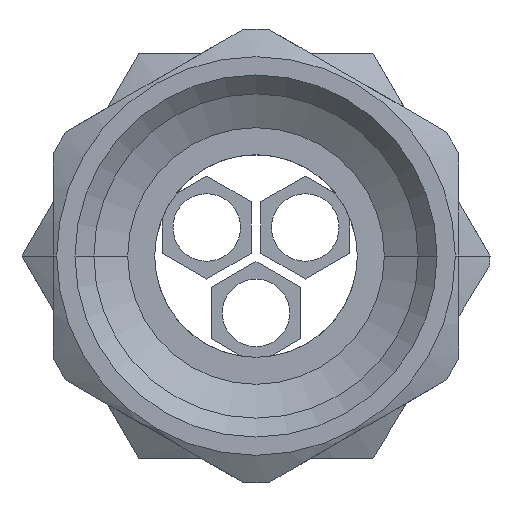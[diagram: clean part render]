
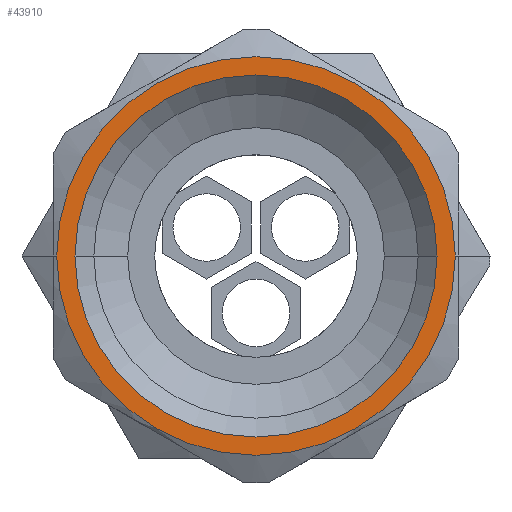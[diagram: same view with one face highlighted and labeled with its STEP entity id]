
A CAD part, front view. The second image highlights one B-rep face of the part: STEP entity #43910.
In plain terms, the highlighted planar face has unit normal (0, -1, 0) as drawn and (1, 0, 0) by its records, which use the part's own axes.
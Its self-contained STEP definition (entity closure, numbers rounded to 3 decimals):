
#41140=CARTESIAN_POINT('',(244.608,-1.023,
0.));
#41150=VERTEX_POINT('',#41140);
#43520=CARTESIAN_POINT('',(244.608,28.477,
0.));
#43530=VERTEX_POINT('',#43520);
#43560=CARTESIAN_POINT('',(244.608,13.727,
0.));
#43570=DIRECTION('',(-1.,0.,0.));
#43580=DIRECTION('',(0.,1.,0.));
#43590=AXIS2_PLACEMENT_3D('',#43560,#43570,#43580);
#43600=CIRCLE('',#43590,14.75);
#43610=EDGE_CURVE('',#41150,#43530,#43600,.T.);
#43660=CARTESIAN_POINT('',(244.608,27.802,
0.));
#43670=DIRECTION('',(1.,0.,0.));
#43680=DIRECTION('',(0.,-1.,0.));
#43690=AXIS2_PLACEMENT_3D('',#43660,#43670,#43680);
#43700=PLANE('',#43690);
#43710=CARTESIAN_POINT('',(244.608,13.727,
0.));
#43720=DIRECTION('',(-1.,0.,0.));
#43730=DIRECTION('',(0.,1.,0.));
#43740=AXIS2_PLACEMENT_3D('',#43710,#43720,#43730);
#43750=CIRCLE('',#43740,13.4);
#43760=CARTESIAN_POINT('',(244.608,27.127,
0.));
#43770=VERTEX_POINT('',#43760);
#43780=CARTESIAN_POINT('',(244.608,0.327,
0.));
#43790=VERTEX_POINT('',#43780);
#43800=EDGE_CURVE('',#43770,#43790,#43750,.T.);
#43810=ORIENTED_EDGE('',*,*,#43800,.T.);
#43820=EDGE_CURVE('',#43790,#43770,#43750,.T.);
#43830=ORIENTED_EDGE('',*,*,#43820,.T.);
#43840=EDGE_LOOP('',(#43830,#43810));
#43850=FACE_BOUND('',#43840,.T.);
#43860=EDGE_CURVE('',#43530,#41150,#43600,.T.);
#43870=ORIENTED_EDGE('',*,*,#43860,.F.);
#43880=ORIENTED_EDGE('',*,*,#43610,.F.);
#43890=EDGE_LOOP('',(#43880,#43870));
#43900=FACE_OUTER_BOUND('',#43890,.T.);
#43910=ADVANCED_FACE('',(#43850,#43900),#43700,.T.);
